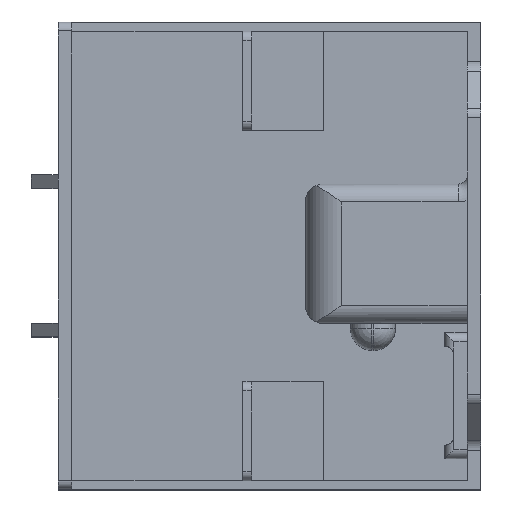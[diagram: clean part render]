
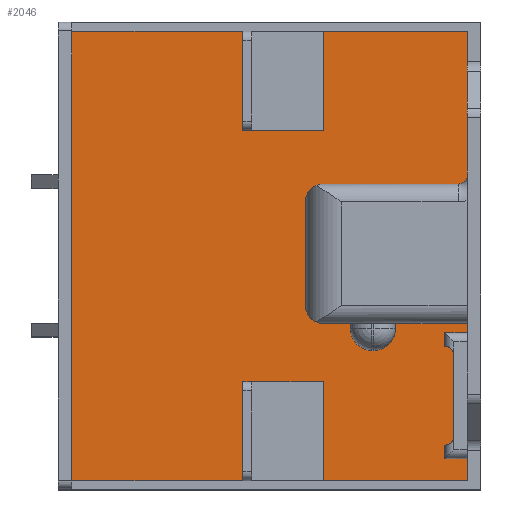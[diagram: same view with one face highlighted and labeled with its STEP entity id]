
A CAD part, top view. The second image highlights one B-rep face of the part: STEP entity #2046.
In plain terms, the highlighted planar face has unit normal (0, 0, 1).
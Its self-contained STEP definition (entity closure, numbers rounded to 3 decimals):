
#71=CIRCLE('',#2174,2.);
#72=CIRCLE('',#2175,2.);
#73=CIRCLE('',#2176,1.);
#74=CIRCLE('',#2177,1.);
#75=CIRCLE('',#2178,1.);
#76=CIRCLE('',#2179,2.4);
#77=CIRCLE('',#2180,2.4);
#119=ORIENTED_EDGE('',*,*,#733,.F.);
#120=ORIENTED_EDGE('',*,*,#734,.T.);
#121=ORIENTED_EDGE('',*,*,#735,.T.);
#122=ORIENTED_EDGE('',*,*,#736,.F.);
#123=ORIENTED_EDGE('',*,*,#737,.T.);
#124=ORIENTED_EDGE('',*,*,#738,.F.);
#125=ORIENTED_EDGE('',*,*,#739,.T.);
#126=ORIENTED_EDGE('',*,*,#740,.F.);
#127=ORIENTED_EDGE('',*,*,#741,.F.);
#128=ORIENTED_EDGE('',*,*,#742,.T.);
#129=ORIENTED_EDGE('',*,*,#743,.F.);
#130=ORIENTED_EDGE('',*,*,#744,.T.);
#131=ORIENTED_EDGE('',*,*,#745,.F.);
#132=ORIENTED_EDGE('',*,*,#746,.F.);
#133=ORIENTED_EDGE('',*,*,#747,.F.);
#134=ORIENTED_EDGE('',*,*,#748,.T.);
#135=ORIENTED_EDGE('',*,*,#749,.F.);
#136=ORIENTED_EDGE('',*,*,#750,.T.);
#137=ORIENTED_EDGE('',*,*,#751,.F.);
#138=ORIENTED_EDGE('',*,*,#752,.F.);
#139=ORIENTED_EDGE('',*,*,#753,.F.);
#140=ORIENTED_EDGE('',*,*,#754,.F.);
#141=ORIENTED_EDGE('',*,*,#755,.F.);
#142=ORIENTED_EDGE('',*,*,#756,.T.);
#143=ORIENTED_EDGE('',*,*,#757,.F.);
#144=ORIENTED_EDGE('',*,*,#758,.T.);
#145=ORIENTED_EDGE('',*,*,#759,.F.);
#146=ORIENTED_EDGE('',*,*,#760,.F.);
#147=ORIENTED_EDGE('',*,*,#761,.T.);
#148=ORIENTED_EDGE('',*,*,#762,.F.);
#149=ORIENTED_EDGE('',*,*,#763,.T.);
#150=ORIENTED_EDGE('',*,*,#764,.F.);
#151=ORIENTED_EDGE('',*,*,#765,.T.);
#152=ORIENTED_EDGE('',*,*,#766,.F.);
#153=ORIENTED_EDGE('',*,*,#767,.T.);
#733=EDGE_CURVE('',#1040,#1041,#1237,.T.);
#734=EDGE_CURVE('',#1040,#1042,#1238,.T.);
#735=EDGE_CURVE('',#1042,#1043,#71,.T.);
#736=EDGE_CURVE('',#1044,#1043,#1239,.T.);
#737=EDGE_CURVE('',#1044,#1045,#72,.T.);
#738=EDGE_CURVE('',#1046,#1045,#1240,.T.);
#739=EDGE_CURVE('',#1046,#1047,#73,.F.);
#740=EDGE_CURVE('',#1048,#1047,#1241,.T.);
#741=EDGE_CURVE('',#1049,#1048,#1242,.T.);
#742=EDGE_CURVE('',#1049,#1050,#1243,.T.);
#743=EDGE_CURVE('',#1051,#1050,#1244,.T.);
#744=EDGE_CURVE('',#1051,#1052,#1245,.T.);
#745=EDGE_CURVE('',#1053,#1052,#1246,.T.);
#746=EDGE_CURVE('',#1054,#1053,#1247,.T.);
#747=EDGE_CURVE('',#1055,#1054,#1248,.T.);
#748=EDGE_CURVE('',#1055,#1056,#1249,.T.);
#749=EDGE_CURVE('',#1057,#1056,#1250,.T.);
#750=EDGE_CURVE('',#1057,#1058,#1251,.T.);
#751=EDGE_CURVE('',#1059,#1058,#1252,.T.);
#752=EDGE_CURVE('',#1060,#1059,#1253,.T.);
#753=EDGE_CURVE('',#1061,#1060,#1254,.T.);
#754=EDGE_CURVE('',#1062,#1061,#1255,.T.);
#755=EDGE_CURVE('',#1063,#1062,#1256,.T.);
#756=EDGE_CURVE('',#1063,#1064,#74,.F.);
#757=EDGE_CURVE('',#1065,#1064,#1257,.T.);
#758=EDGE_CURVE('',#1065,#1066,#75,.F.);
#759=EDGE_CURVE('',#1067,#1066,#1258,.T.);
#760=EDGE_CURVE('',#1068,#1067,#1259,.T.);
#761=EDGE_CURVE('',#1068,#1069,#1260,.T.);
#762=EDGE_CURVE('',#1070,#1069,#1261,.T.);
#763=EDGE_CURVE('',#1070,#1071,#1262,.T.);
#764=EDGE_CURVE('',#1072,#1071,#1263,.T.);
#765=EDGE_CURVE('',#1072,#1073,#76,.T.);
#766=EDGE_CURVE('',#1074,#1073,#1264,.T.);
#767=EDGE_CURVE('',#1074,#1041,#77,.T.);
#1040=VERTEX_POINT('',#2931);
#1041=VERTEX_POINT('',#2932);
#1042=VERTEX_POINT('',#2934);
#1043=VERTEX_POINT('',#2936);
#1044=VERTEX_POINT('',#2938);
#1045=VERTEX_POINT('',#2940);
#1046=VERTEX_POINT('',#2942);
#1047=VERTEX_POINT('',#2944);
#1048=VERTEX_POINT('',#2946);
#1049=VERTEX_POINT('',#2948);
#1050=VERTEX_POINT('',#2950);
#1051=VERTEX_POINT('',#2952);
#1052=VERTEX_POINT('',#2954);
#1053=VERTEX_POINT('',#2956);
#1054=VERTEX_POINT('',#2958);
#1055=VERTEX_POINT('',#2960);
#1056=VERTEX_POINT('',#2962);
#1057=VERTEX_POINT('',#2964);
#1058=VERTEX_POINT('',#2966);
#1059=VERTEX_POINT('',#2968);
#1060=VERTEX_POINT('',#2970);
#1061=VERTEX_POINT('',#2972);
#1062=VERTEX_POINT('',#2974);
#1063=VERTEX_POINT('',#2976);
#1064=VERTEX_POINT('',#2978);
#1065=VERTEX_POINT('',#2980);
#1066=VERTEX_POINT('',#2982);
#1067=VERTEX_POINT('',#2984);
#1068=VERTEX_POINT('',#2986);
#1069=VERTEX_POINT('',#2988);
#1070=VERTEX_POINT('',#2990);
#1071=VERTEX_POINT('',#2992);
#1072=VERTEX_POINT('',#2994);
#1073=VERTEX_POINT('',#2996);
#1074=VERTEX_POINT('',#2998);
#1237=LINE('',#2930,#1480);
#1238=LINE('',#2933,#1481);
#1239=LINE('',#2937,#1482);
#1240=LINE('',#2941,#1483);
#1241=LINE('',#2945,#1484);
#1242=LINE('',#2947,#1485);
#1243=LINE('',#2949,#1486);
#1244=LINE('',#2951,#1487);
#1245=LINE('',#2953,#1488);
#1246=LINE('',#2955,#1489);
#1247=LINE('',#2957,#1490);
#1248=LINE('',#2959,#1491);
#1249=LINE('',#2961,#1492);
#1250=LINE('',#2963,#1493);
#1251=LINE('',#2965,#1494);
#1252=LINE('',#2967,#1495);
#1253=LINE('',#2969,#1496);
#1254=LINE('',#2971,#1497);
#1255=LINE('',#2973,#1498);
#1256=LINE('',#2975,#1499);
#1257=LINE('',#2979,#1500);
#1258=LINE('',#2983,#1501);
#1259=LINE('',#2985,#1502);
#1260=LINE('',#2987,#1503);
#1261=LINE('',#2989,#1504);
#1262=LINE('',#2991,#1505);
#1263=LINE('',#2993,#1506);
#1264=LINE('',#2997,#1507);
#1480=VECTOR('',#2347,1000.);
#1481=VECTOR('',#2348,1000.);
#1482=VECTOR('',#2351,1000.);
#1483=VECTOR('',#2354,1000.);
#1484=VECTOR('',#2357,1000.);
#1485=VECTOR('',#2358,1000.);
#1486=VECTOR('',#2359,1000.);
#1487=VECTOR('',#2360,1000.);
#1488=VECTOR('',#2361,1000.);
#1489=VECTOR('',#2362,1000.);
#1490=VECTOR('',#2363,1000.);
#1491=VECTOR('',#2364,1000.);
#1492=VECTOR('',#2365,1000.);
#1493=VECTOR('',#2366,1000.);
#1494=VECTOR('',#2367,1000.);
#1495=VECTOR('',#2368,1000.);
#1496=VECTOR('',#2369,1000.);
#1497=VECTOR('',#2370,1000.);
#1498=VECTOR('',#2371,1000.);
#1499=VECTOR('',#2372,1000.);
#1500=VECTOR('',#2375,1000.);
#1501=VECTOR('',#2378,1000.);
#1502=VECTOR('',#2379,1000.);
#1503=VECTOR('',#2380,1000.);
#1504=VECTOR('',#2381,1000.);
#1505=VECTOR('',#2382,1000.);
#1506=VECTOR('',#2383,1000.);
#1507=VECTOR('',#2386,1000.);
#1723=EDGE_LOOP('',(#119,#120,#121,#122,#123,#124,#125,#126,#127,#128,#129,
#130,#131,#132,#133,#134,#135,#136,#137,#138,#139,#140,#141,#142,#143,#144,
#145,#146,#147,#148,#149,#150,#151,#152,#153));
#1845=FACE_BOUND('',#1723,.T.);
#1967=PLANE('',#2173);
#2046=ADVANCED_FACE('',(#1845),#1967,.F.);
#2173=AXIS2_PLACEMENT_3D('',#2929,#2345,#2346);
#2174=AXIS2_PLACEMENT_3D('',#2935,#2349,#2350);
#2175=AXIS2_PLACEMENT_3D('',#2939,#2352,#2353);
#2176=AXIS2_PLACEMENT_3D('',#2943,#2355,#2356);
#2177=AXIS2_PLACEMENT_3D('',#2977,#2373,#2374);
#2178=AXIS2_PLACEMENT_3D('',#2981,#2376,#2377);
#2179=AXIS2_PLACEMENT_3D('',#2995,#2384,#2385);
#2180=AXIS2_PLACEMENT_3D('',#2999,#2387,#2388);
#2345=DIRECTION('',(0.,0.,-1.));
#2346=DIRECTION('',(-1.,0.,0.));
#2347=DIRECTION('',(0.,-1.,0.));
#2348=DIRECTION('',(-1.,0.,0.));
#2349=DIRECTION('',(0.,0.,-1.));
#2350=DIRECTION('',(-1.,0.,0.));
#2351=DIRECTION('',(0.,-1.,0.));
#2352=DIRECTION('',(0.,0.,-1.));
#2353=DIRECTION('',(-1.,0.,0.));
#2354=DIRECTION('',(-1.,0.,0.));
#2355=DIRECTION('',(0.,0.,-1.));
#2356=DIRECTION('',(-1.,0.,0.));
#2357=DIRECTION('',(0.,-1.,0.));
#2358=DIRECTION('',(1.,0.,0.));
#2359=DIRECTION('',(0.,-1.,0.));
#2360=DIRECTION('',(1.,0.,0.));
#2361=DIRECTION('',(0.,1.,0.));
#2362=DIRECTION('',(1.,0.,0.));
#2363=DIRECTION('',(0.,1.,0.));
#2364=DIRECTION('',(-1.,0.,0.));
#2365=DIRECTION('',(0.,1.,0.));
#2366=DIRECTION('',(-1.,0.,0.));
#2367=DIRECTION('',(0.,-1.,0.));
#2368=DIRECTION('',(-1.,0.,0.));
#2369=DIRECTION('',(0.,-1.,0.));
#2370=DIRECTION('',(1.,0.,0.));
#2371=DIRECTION('',(0.,-1.,0.));
#2372=DIRECTION('',(-1.,0.,0.));
#2373=DIRECTION('',(0.,0.,-1.));
#2374=DIRECTION('',(-1.,0.,0.));
#2375=DIRECTION('',(0.,-1.,0.));
#2376=DIRECTION('',(0.,0.,-1.));
#2377=DIRECTION('',(-1.,0.,0.));
#2378=DIRECTION('',(1.,0.,0.));
#2379=DIRECTION('',(0.,-1.,0.));
#2380=DIRECTION('',(1.,0.,0.));
#2381=DIRECTION('',(0.,-1.,0.));
#2382=DIRECTION('',(-1.,0.,0.));
#2383=DIRECTION('',(0.,1.,0.));
#2384=DIRECTION('',(0.,0.,-1.));
#2385=DIRECTION('',(-1.,0.,0.));
#2386=DIRECTION('',(1.,0.,0.));
#2387=DIRECTION('',(0.,0.,-1.));
#2388=DIRECTION('',(-1.,0.,0.));
#2929=CARTESIAN_POINT('',(0.,0.,12.));
#2930=CARTESIAN_POINT('',(11.,-7.5,12.));
#2931=CARTESIAN_POINT('',(11.,-7.5,12.));
#2932=CARTESIAN_POINT('',(11.,-8.1,12.));
#2933=CARTESIAN_POINT('',(23.807,-7.5,12.));
#2934=CARTESIAN_POINT('',(8.,-7.5,12.));
#2935=CARTESIAN_POINT('',(8.,-5.5,12.));
#2936=CARTESIAN_POINT('',(6.,-5.5,12.));
#2937=CARTESIAN_POINT('',(6.,9.437,12.));
#2938=CARTESIAN_POINT('',(6.,6.,12.));
#2939=CARTESIAN_POINT('',(8.,6.,12.));
#2940=CARTESIAN_POINT('',(8.,8.,12.));
#2941=CARTESIAN_POINT('',(24.,8.,12.));
#2942=CARTESIAN_POINT('',(23.,8.,12.));
#2943=CARTESIAN_POINT('',(23.,9.,12.));
#2944=CARTESIAN_POINT('',(24.,9.,12.));
#2945=CARTESIAN_POINT('',(24.,3.555,12.));
#2946=CARTESIAN_POINT('',(24.,25.,12.));
#2947=CARTESIAN_POINT('',(24.,25.,12.));
#2948=CARTESIAN_POINT('',(8.,25.,12.));
#2949=CARTESIAN_POINT('',(8.,16.,12.));
#2950=CARTESIAN_POINT('',(8.,14.,12.));
#2951=CARTESIAN_POINT('',(2.,14.,12.));
#2952=CARTESIAN_POINT('',(-1.,14.,12.));
#2953=CARTESIAN_POINT('',(-1.,25.,12.));
#2954=CARTESIAN_POINT('',(-1.,25.,12.));
#2955=CARTESIAN_POINT('',(2.,25.,12.));
#2956=CARTESIAN_POINT('',(-20.,25.,12.));
#2957=CARTESIAN_POINT('',(-20.,-3.565,12.));
#2958=CARTESIAN_POINT('',(-20.,-25.,12.));
#2959=CARTESIAN_POINT('',(2.,-25.,12.));
#2960=CARTESIAN_POINT('',(-1.,-25.,12.));
#2961=CARTESIAN_POINT('',(-1.,-14.,12.));
#2962=CARTESIAN_POINT('',(-1.,-14.,12.));
#2963=CARTESIAN_POINT('',(11.,-14.,12.));
#2964=CARTESIAN_POINT('',(8.,-14.,12.));
#2965=CARTESIAN_POINT('',(8.,-25.,12.));
#2966=CARTESIAN_POINT('',(8.,-25.,12.));
#2967=CARTESIAN_POINT('',(24.,-25.,12.));
#2968=CARTESIAN_POINT('',(24.,-25.,12.));
#2969=CARTESIAN_POINT('',(24.,-25.,12.));
#2970=CARTESIAN_POINT('',(24.,-22.544,12.));
#2971=CARTESIAN_POINT('',(21.5,-22.544,12.));
#2972=CARTESIAN_POINT('',(21.5,-22.544,12.));
#2973=CARTESIAN_POINT('',(21.5,-8.544,12.));
#2974=CARTESIAN_POINT('',(21.5,-21.044,12.));
#2975=CARTESIAN_POINT('',(21.5,-21.044,12.));
#2976=CARTESIAN_POINT('',(23.,-21.044,12.));
#2977=CARTESIAN_POINT('',(23.,-20.044,12.));
#2978=CARTESIAN_POINT('',(24.,-20.044,12.));
#2979=CARTESIAN_POINT('',(24.,0.,12.));
#2980=CARTESIAN_POINT('',(24.,-11.044,12.));
#2981=CARTESIAN_POINT('',(23.,-11.044,12.));
#2982=CARTESIAN_POINT('',(23.,-10.044,12.));
#2983=CARTESIAN_POINT('',(21.5,-10.044,12.));
#2984=CARTESIAN_POINT('',(21.5,-10.044,12.));
#2985=CARTESIAN_POINT('',(21.5,-8.544,12.));
#2986=CARTESIAN_POINT('',(21.5,-8.544,12.));
#2987=CARTESIAN_POINT('',(21.5,-8.544,12.));
#2988=CARTESIAN_POINT('',(24.,-8.544,12.));
#2989=CARTESIAN_POINT('',(24.,-25.,12.));
#2990=CARTESIAN_POINT('',(24.,-7.5,12.));
#2991=CARTESIAN_POINT('',(23.807,-7.5,12.));
#2992=CARTESIAN_POINT('',(16.,-7.5,12.));
#2993=CARTESIAN_POINT('',(16.,-10.5,12.));
#2994=CARTESIAN_POINT('',(16.,-8.1,12.));
#2995=CARTESIAN_POINT('',(13.6,-8.1,12.));
#2996=CARTESIAN_POINT('',(13.6,-10.5,12.));
#2997=CARTESIAN_POINT('',(11.,-10.5,12.));
#2998=CARTESIAN_POINT('',(13.4,-10.5,12.));
#2999=CARTESIAN_POINT('',(13.4,-8.1,12.));
